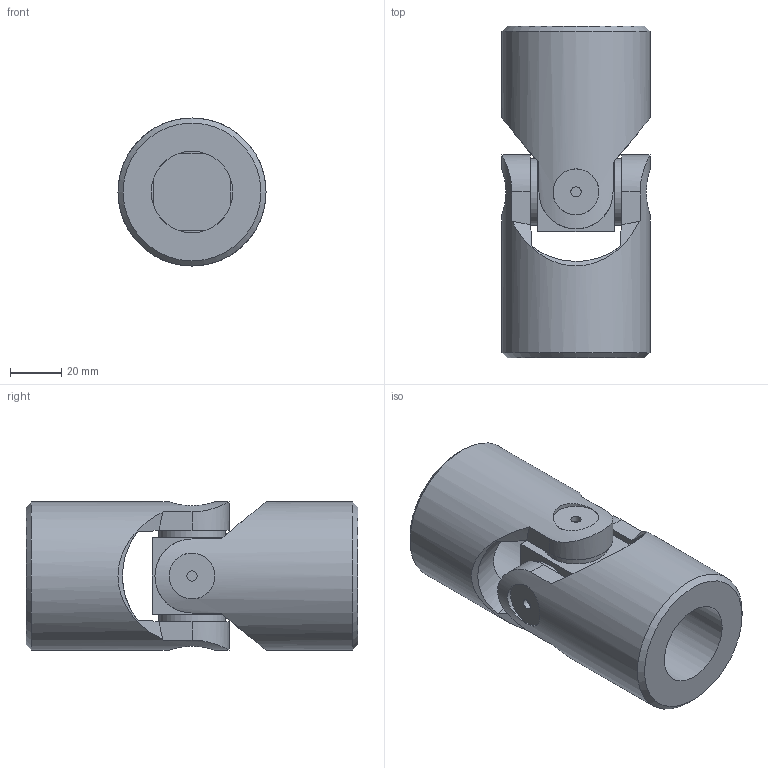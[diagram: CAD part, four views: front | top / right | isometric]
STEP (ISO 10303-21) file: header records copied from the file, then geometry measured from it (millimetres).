
FILE_DESCRIPTION(/* description */ (''),/* implementation_level */ '2;1');
FILE_NAME(/* name */ '\\SRV2016\Societa\Stefano\Disegni 3D\Dis. Clienti\0000Catalogo 3D\01Singoli G-GB\6G1-00_SG0S3200.stp',/* time_stamp */ '2021-11-10T11:17:08+01:00',/* author */ ('acquisti'),/* organization */ (''),/* preprocessor_version */ 'ST-DEVELOPER v15.6',/* originating_system */ 'Autodesk Inventor 2015',/* authorisation */ '');
FILE_SCHEMA (('AUTOMOTIVE_DESIGN { 1 0 10303 214 3 1 1 }'));
Length unit declared in the file: millimetre
Products named in the file (3): 6G SFE; 6G1 MOS; Assieme1
Assembly tree (3 placements, depth 2):
  Assieme1
    6G SFE
    6G1 MOS  x2
Bounding box: 58 x 130 x 58 mm (x, y, z)
Volume: 220657.8 mm3; surface area: 46864.9 mm2
Topology: 3 solids, 3 shells, 68 faces, 162 edges, 110 vertices
Faces by surface type: plane 36, cylinder 20, cone 10, torus 2
Full cylindrical faces by diameter (mm): 4 x4, 18 x4, 26 x4, 32 x2, 58 x2
Entity records: 1367 total; most frequent: CARTESIAN_POINT 450, DIRECTION 176, ORIENTED_EDGE 160, EDGE_CURVE 80, AXIS2_PLACEMENT_3D 76, EDGE_LOOP 62, VERTEX_POINT 62, FACE_OUTER_BOUND 41
